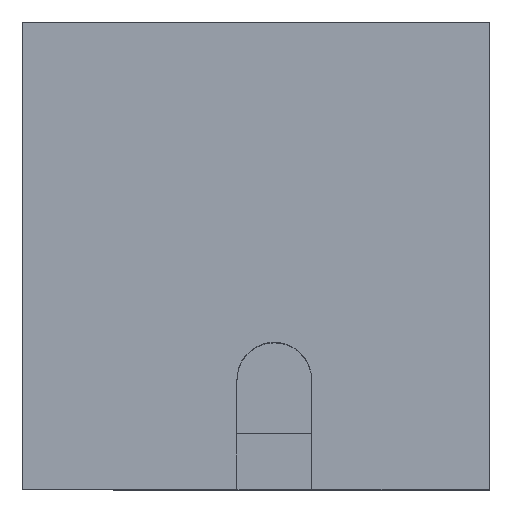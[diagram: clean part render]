
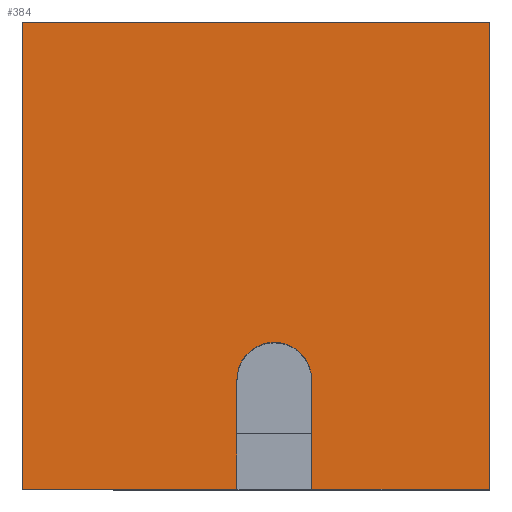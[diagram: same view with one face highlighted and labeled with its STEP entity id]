
A CAD part, top view. The second image highlights one B-rep face of the part: STEP entity #384.
In plain terms, the highlighted planar face has unit normal (0, 0, 1).
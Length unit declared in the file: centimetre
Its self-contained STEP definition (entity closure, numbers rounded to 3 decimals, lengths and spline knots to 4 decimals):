
#9 = DIRECTION ( 'NONE',  ( -1., 0., 0. ) ) ;
#34 = ORIENTED_EDGE ( 'NONE', *, *, #908, .T. ) ;
#43 = DIRECTION ( 'NONE',  ( 0., 1., 0. ) ) ;
#56 = EDGE_LOOP ( 'NONE', ( #77, #742, #435, #625, #599, #774, #805, #34 ) ) ;
#65 = CARTESIAN_POINT ( 'NONE',  ( 539.1708, 234.5488, 1000. ) ) ;
#77 = ORIENTED_EDGE ( 'NONE', *, *, #791, .F. ) ;
#112 = VERTEX_POINT ( 'NONE', #193 ) ;
#125 = DIRECTION ( 'NONE',  ( 0., 1., 0. ) ) ;
#132 = EDGE_CURVE ( 'NONE', #845, #112, #277, .T. ) ;
#141 = DIRECTION ( 'NONE',  ( 1., 0., 0. ) ) ;
#193 = CARTESIAN_POINT ( 'NONE',  ( 619.0438, 234.5488, 1000. ) ) ;
#198 = CARTESIAN_POINT ( 'NONE',  ( 0., 1000., 1000. ) ) ;
#240 = VECTOR ( 'NONE', #570, 100. ) ;
#259 = CARTESIAN_POINT ( 'NONE',  ( 619.0438, 0., 1000. ) ) ;
#263 = CARTESIAN_POINT ( 'NONE',  ( 1000., 1000., 1000. ) ) ;
#277 = LINE ( 'NONE', #425, #756 ) ;
#280 = CARTESIAN_POINT ( 'NONE',  ( 1000., 0., 1000. ) ) ;
#285 = DIRECTION ( 'NONE',  ( -1., 0., 0. ) ) ;
#291 = LINE ( 'NONE', #678, #336 ) ;
#297 = LINE ( 'NONE', #459, #646 ) ;
#301 = DIRECTION ( 'NONE',  ( 1., 0., 0. ) ) ;
#318 = VERTEX_POINT ( 'NONE', #280 ) ;
#329 = VECTOR ( 'NONE', #426, 100. ) ;
#336 = VECTOR ( 'NONE', #9, 100. ) ;
#357 = CARTESIAN_POINT ( 'NONE',  ( 0., 0., 1000. ) ) ;
#363 = DIRECTION ( 'NONE',  ( 0., 0., 1. ) ) ;
#364 = VERTEX_POINT ( 'NONE', #518 ) ;
#372 = AXIS2_PLACEMENT_3D ( 'NONE', #65, #363, #285 ) ;
#378 = DIRECTION ( 'NONE',  ( 0., 0., 1. ) ) ;
#384 = ADVANCED_FACE ( 'NONE', ( #512 ), #580, .T. ) ;
#412 = LINE ( 'NONE', #263, #477 ) ;
#414 = CARTESIAN_POINT ( 'NONE',  ( 0., 0., 1000. ) ) ;
#425 = CARTESIAN_POINT ( 'NONE',  ( 619.0438, 234.5488, 1000. ) ) ;
#426 = DIRECTION ( 'NONE',  ( 0., -1., 0. ) ) ;
#435 = ORIENTED_EDGE ( 'NONE', *, *, #132, .F. ) ;
#452 = VERTEX_POINT ( 'NONE', #732 ) ;
#459 = CARTESIAN_POINT ( 'NONE',  ( 0., 0., 1000. ) ) ;
#477 = VECTOR ( 'NONE', #43, 100. ) ;
#487 = LINE ( 'NONE', #414, #865 ) ;
#491 = EDGE_CURVE ( 'NONE', #112, #452, #806, .T. ) ;
#512 = FACE_OUTER_BOUND ( 'NONE', #56, .T. ) ;
#518 = CARTESIAN_POINT ( 'NONE',  ( 0., 0., 1000. ) ) ;
#563 = EDGE_CURVE ( 'NONE', #845, #318, #297, .T. ) ;
#570 = DIRECTION ( 'NONE',  ( 0., -1., 0. ) ) ;
#579 = EDGE_CURVE ( 'NONE', #896, #733, #291, .T. ) ;
#580 = PLANE ( 'NONE',  #743 ) ;
#599 = ORIENTED_EDGE ( 'NONE', *, *, #809, .T. ) ;
#620 = CARTESIAN_POINT ( 'NONE',  ( 0., 1000., 1000. ) ) ;
#625 = ORIENTED_EDGE ( 'NONE', *, *, #563, .T. ) ;
#646 = VECTOR ( 'NONE', #141, 100. ) ;
#650 = CARTESIAN_POINT ( 'NONE',  ( 1000., 1000., 1000. ) ) ;
#678 = CARTESIAN_POINT ( 'NONE',  ( 0., 1000., 1000. ) ) ;
#719 = DIRECTION ( 'NONE',  ( 1., 0., 0. ) ) ;
#732 = CARTESIAN_POINT ( 'NONE',  ( 459.2978, 234.5488, 1000. ) ) ;
#733 = VERTEX_POINT ( 'NONE', #620 ) ;
#742 = ORIENTED_EDGE ( 'NONE', *, *, #491, .F. ) ;
#743 = AXIS2_PLACEMENT_3D ( 'NONE', #357, #378, #301 ) ;
#756 = VECTOR ( 'NONE', #125, 100. ) ;
#774 = ORIENTED_EDGE ( 'NONE', *, *, #579, .T. ) ;
#790 = CARTESIAN_POINT ( 'NONE',  ( 459.2978, 0., 1000. ) ) ;
#791 = EDGE_CURVE ( 'NONE', #452, #927, #937, .T. ) ;
#797 = LINE ( 'NONE', #198, #329 ) ;
#805 = ORIENTED_EDGE ( 'NONE', *, *, #892, .T. ) ;
#806 = CIRCLE ( 'NONE', #372, 79.873 ) ;
#809 = EDGE_CURVE ( 'NONE', #318, #896, #412, .T. ) ;
#845 = VERTEX_POINT ( 'NONE', #259 ) ;
#865 = VECTOR ( 'NONE', #719, 100. ) ;
#892 = EDGE_CURVE ( 'NONE', #733, #364, #797, .T. ) ;
#896 = VERTEX_POINT ( 'NONE', #650 ) ;
#908 = EDGE_CURVE ( 'NONE', #364, #927, #487, .T. ) ;
#927 = VERTEX_POINT ( 'NONE', #790 ) ;
#937 = LINE ( 'NONE', #941, #240 ) ;
#941 = CARTESIAN_POINT ( 'NONE',  ( 459.2978, 0., 1000. ) ) ;
